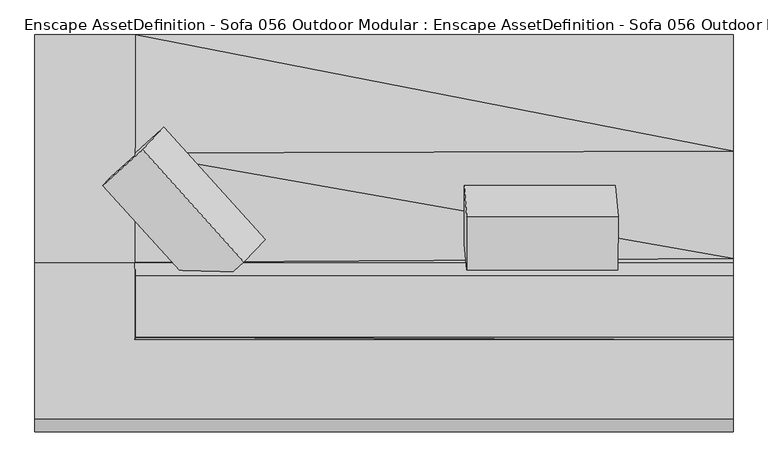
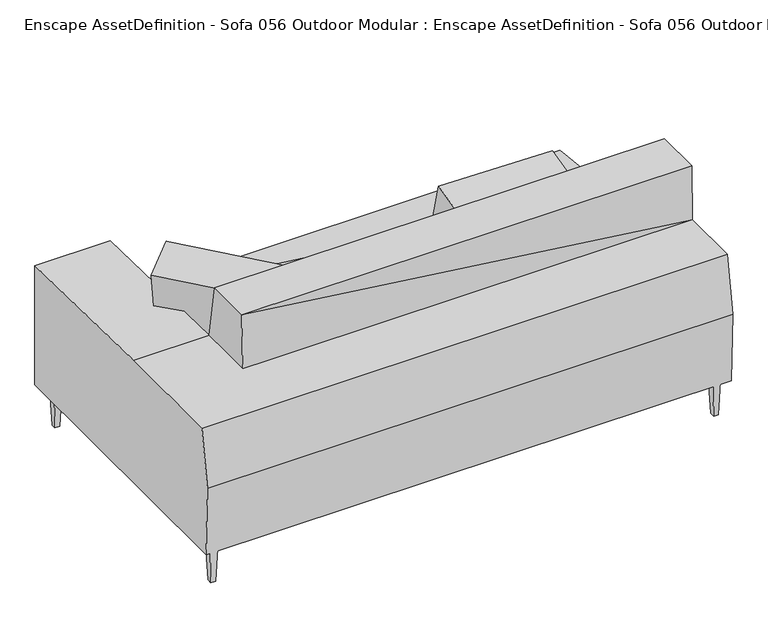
"""IFC4 building model written with IfcOpenShell, lengths in millimetres: geographic element geometry, Enscape AssetDefinition - Sofa 056 Outdoor Modular : Enscape AssetDefinition - Sofa 056 Outdoor Modular."""

from ifc_helpers import new_model, si_unit, origin, place, context, project, spatial, triangles, source, transform, mapped, element, save


def enscape_assetdefinition_sofa_056_outdoor_modular_enscape_2671a9af(model_context):
    return source(origin(), model_context, "Body", "Tessellation", [
        triangles([(1077.49317, 607.986581, 172.9710736), (-764.4739042, 607.986581, 431.7268092), (1077.49317, -605.262147, 172.9710736), (1077.49317, 249.3578718, 472.4326095), (1077.49317, 607.986581, 434.788977), (-764.6126312, 243.2522851, 459.1667404), (-764.5629976, 607.9865084, 687.3795547), (-764.7407484, -93.3756685, 444.7478531), (1077.49317, -81.6349789, 467.4313159), (-1072.8786987, -605.262147, 172.9710736), (-1072.8786987, 607.986581, 172.9710736), (1077.49317, -615.9551353, 467.4313159), (1077.49317, -133.0335767, 932.7055687), (1077.49317, -331.7289522, 703.4626574), (1077.49317, -93.3756231, 703.4626574), (1077.49317, -324.8817321, 932.7055687), (1077.49317, -577.8821686, 703.4626574), (-764.6425713, -332.1499658, 703.4625847), (-764.7407484, -93.3756685, 703.4625847), (-1072.8786987, -577.5208898, 703.4625847), (-1072.8786987, -93.3756685, 703.4625847), (-1072.8786987, 607.986581, 687.3795547), (-1072.8786987, -615.955208, 467.4313159), (-764.3849562, -133.0336221, 932.705496), (-764.3849562, -324.8818048, 932.7055687), (249.2286645, 143.3562479, 495.571168), (722.4889669, -116.4803993, 857.2618452), (714.5272436, -21.3833605, 448.2150833), (715.2724016, 143.3562479, 486.5000284), (256.4452299, -116.4803993, 866.3329485), (248.4834884, -21.3833605, 457.2862229), (257.190406, 48.2592227, 904.6178209), (723.2341249, 48.2592227, 895.5467176), (-551.954318, -202.2171627, 843.839554), (-863.8173317, 144.1039039, 852.91073), (-798.47757, 213.6565081, 443.8639318), (-486.614738, -132.6645495, 434.7928285), (-740.8991804, 253.7891057, 891.1955297), (-363.696623, -22.9793364, 473.0777009), (-675.559564, 323.3417098, 482.1488405), (-429.0363121, -92.531961, 882.1244265), (1037.479624, 574.5255784, 0.0), (1056.7195107, 574.5255784, 0.0), (1063.761232, 581.7919227, 179.7984366), (1030.4379753, 581.7919227, 179.7984366), (1056.7195107, 554.6715214, 0.0), (1037.479624, 554.6715214, 0.0), (1063.761232, 547.4051771, 179.7984366), (1030.4379753, 547.4051771, 179.7984366), (1037.479624, -530.4129004, 0.0), (1063.761232, -523.1465198, 179.7984366), (1056.7195107, -530.4129004, 0.0), (1056.7195107, -550.266921, 0.0), (1030.4379753, -557.533338, 179.7984366), (1063.761232, -557.533338, 179.7984366), (1037.479624, -550.266921, 0.0), (1030.4379753, -523.1465198, 179.7984366), (-1002.2122999, 574.5255784, 0.0), (-995.1705786, 581.7919227, 179.7984366), (-1028.4939079, 581.7919227, 179.7984366), (-1002.2122999, 554.6715214, 0.0), (-1021.4521866, 574.5255784, 0.0), (-1028.4939079, 547.4051771, 179.7984366), (-995.1705786, 547.4051771, 179.7984366), (-1021.4521866, 554.6715214, 0.0), (-1002.2122999, -550.266921, 0.0), (-1002.2122999, -530.4129004, 0.0), (-995.1705786, -523.1465198, 179.7984366), (-1021.4521866, -530.4129004, 0.0), (-1021.4521866, -550.266921, 0.0), (-1028.4939079, -523.1465198, 179.7984366), (-995.1705786, -557.533338, 179.7984366), (-1028.4939079, -557.533338, 179.7984366)], [[71, 70, 73], [72, 71, 73], [68, 71, 72], [72, 67, 68], [70, 66, 73], [66, 67, 72], [73, 66, 72], [69, 70, 71], [67, 69, 68], [70, 69, 66], [68, 69, 71], [66, 69, 67], [60, 65, 63], [64, 60, 63], [59, 60, 64], [64, 58, 59], [65, 61, 63], [61, 58, 64], [63, 61, 64], [62, 65, 60], [58, 62, 59], [65, 62, 61], [59, 62, 60], [61, 62, 58], [57, 56, 54], [55, 57, 54], [51, 57, 55], [55, 52, 51], [56, 53, 54], [53, 52, 55], [54, 53, 55], [50, 56, 57], [52, 50, 51], [56, 50, 53], [51, 50, 57], [53, 50, 52], [45, 47, 49], [48, 45, 49], [44, 45, 48], [48, 43, 44], [47, 46, 49], [46, 43, 48], [49, 46, 48], [42, 47, 45], [43, 42, 44], [47, 42, 46], [44, 42, 45], [46, 42, 43], [40, 35, 38], [41, 40, 38], [39, 40, 41], [41, 37, 39], [35, 34, 38], [34, 37, 41], [38, 34, 41], [36, 35, 40], [37, 36, 39], [35, 36, 34], [39, 36, 40], [34, 36, 37], [26, 30, 32], [33, 26, 32], [29, 26, 33], [33, 28, 29], [30, 27, 32], [27, 28, 33], [32, 27, 33], [31, 30, 26], [28, 31, 29], [30, 31, 27], [29, 31, 26], [27, 31, 28], [16, 13, 24], [25, 16, 24], [24, 19, 25], [19, 24, 13], [7, 19, 8], [7, 22, 19], [22, 7, 11], [22, 11, 23], [21, 22, 23], [22, 21, 19], [19, 21, 20], [21, 23, 20], [18, 19, 20], [19, 18, 25], [18, 20, 17], [14, 18, 17], [16, 25, 14], [25, 18, 14], [13, 16, 14], [15, 19, 13], [15, 13, 14], [17, 20, 12], [15, 14, 12], [17, 12, 14], [20, 23, 12], [23, 10, 12], [11, 10, 23], [10, 3, 12], [8, 19, 9], [9, 15, 12], [19, 15, 9], [12, 3, 9], [6, 7, 8], [6, 8, 9], [2, 7, 6], [7, 2, 11], [9, 3, 4], [4, 6, 9], [2, 6, 4], [5, 2, 4], [3, 10, 1], [5, 1, 2], [3, 1, 4], [10, 11, 1], [1, 11, 2], [4, 1, 5]]),
    ])


if __name__ == "__main__":
    model = new_model("IFC4")
    model_context = context("Model", 3, world=origin())
    ifc_project = project(units=[si_unit("LENGTHUNIT", "METRE", prefix="MILLI")], contexts=[model_context])
    site = spatial("IfcSite", under=ifc_project)
    building = spatial("IfcBuilding", under=site)
    placement = place(None, origin())
    enscape_assetdefinition_sofa_056_outdoor_modular_enscape_shape = enscape_assetdefinition_sofa_056_outdoor_modular_enscape_2671a9af(model_context)
    element("IfcGeographicElement", 1, ObjectType="Enscape AssetDefinition - Sofa 056 Outdoor Modular : Enscape AssetDefinition - Sofa 056 Outdoor Modular", at=placement, inside=building, context=model_context, shape_type="MappedRepresentation", body=[
        mapped(enscape_assetdefinition_sofa_056_outdoor_modular_enscape_shape, transform((0.0, 0.0, 0.0), x_axis=(1.0, 0.0, 0.0), y_axis=(0.0, 1.0, 0.0), z_axis=(0.0, 0.0, 1.0))),
    ])
    save(model, "model.ifc")
